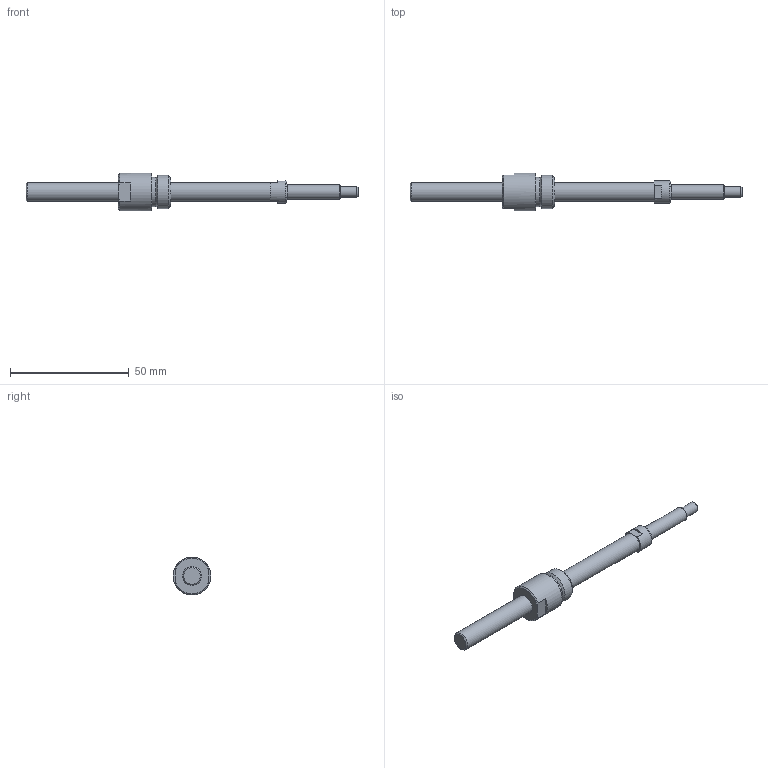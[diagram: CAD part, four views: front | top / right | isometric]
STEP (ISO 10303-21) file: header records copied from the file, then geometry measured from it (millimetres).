
FILE_DESCRIPTION(/* description */ ('STEP AP214'),/* implementation_level */ '2;1');
FILE_NAME(/* name */ 'NSG0801-100R140C5A0X(39)',/* time_stamp */ '2026-08-20T15:46:59+02:00',/* author */ ('License CC BY-ND 4.0'),/* organization */ ('CADENAS'),/* preprocessor_version */ 'ST-DEVELOPER v20',/* originating_system */ 'PARTsolutions',/* authorisation */ ' ');
FILE_SCHEMA (('AUTOMOTIVE_DESIGN {1 0 10303 214 3 1 1}'));
Length unit declared in the file: millimetre
Products named in the file (3): NSG0801-100R140C5A0X(39); NSG0801-100R140C3A_shaft; NSG0801_nut
Assembly tree (2 placements, depth 2):
  NSG0801-100R140C5A0X(39)
    NSG0801-100R140C3A_shaft
    NSG0801_nut
Bounding box: 140 x 16 x 16 mm (x, y, z)
Volume: 9194.2 mm3; surface area: 5342.6 mm2
Topology: 2 solids, 2 shells, 35 faces, 72 edges, 44 vertices
Faces by surface type: plane 17, cone 9, cylinder 8, torus 1
Full cylindrical faces by diameter (mm): 4.5 x1, 6 x1, 8 x2, 9.5 x1, 12.4 x1, 14 x1, 16 x1
Entity records: 907 total; most frequent: DIRECTION 158, CARTESIAN_POINT 146, ORIENTED_EDGE 108, AXIS2_PLACEMENT_3D 70, EDGE_LOOP 56, FACE_BOUND 56, EDGE_CURVE 54, VERTEX_POINT 42
